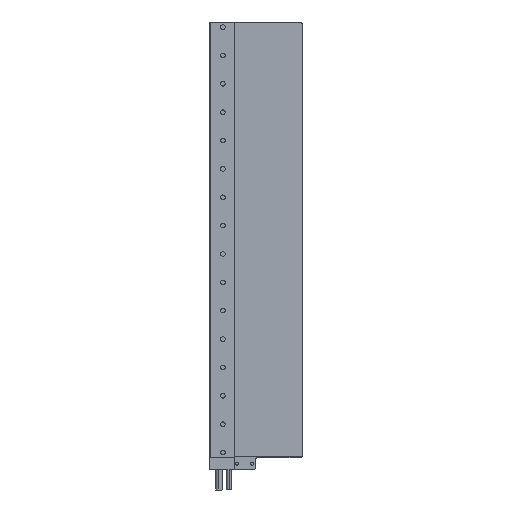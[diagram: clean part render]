
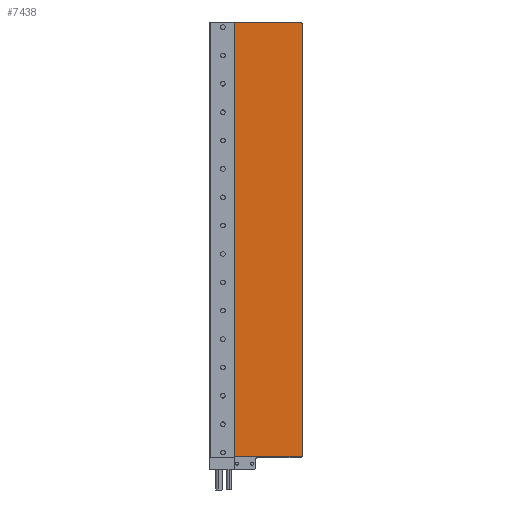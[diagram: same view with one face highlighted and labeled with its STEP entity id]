
A CAD part, front view. The second image highlights one B-rep face of the part: STEP entity #7438.
In plain terms, the highlighted planar face has unit normal (0, -1, 0).
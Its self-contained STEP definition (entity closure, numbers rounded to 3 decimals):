
#88 = VERTEX_POINT ( 'NONE', #9303 ) ;
#237 = CIRCLE ( 'NONE', #3713, 2. ) ;
#317 = CARTESIAN_POINT ( 'NONE',  ( 139.883, 195.639, 613.424 ) ) ;
#355 = DIRECTION ( 'NONE',  ( -1., 0., 0. ) ) ;
#511 = LINE ( 'NONE', #9707, #7962 ) ;
#561 = ORIENTED_EDGE ( 'NONE', *, *, #3413, .F. ) ;
#660 = CARTESIAN_POINT ( 'NONE',  ( 141.616, 195.639, 186.424 ) ) ;
#851 = DIRECTION ( 'NONE',  ( 0., 0., 1. ) ) ;
#1902 = VERTEX_POINT ( 'NONE', #8930 ) ;
#2148 = DIRECTION ( 'NONE',  ( -1., 0., 0. ) ) ;
#2223 = CARTESIAN_POINT ( 'NONE',  ( 141.883, 195.639, 186.424 ) ) ;
#2439 = CARTESIAN_POINT ( 'NONE',  ( 139.883, 195.639, 615.424 ) ) ;
#2601 = EDGE_CURVE ( 'NONE', #9315, #1902, #511, .T. ) ;
#2702 = DIRECTION ( 'NONE',  ( 0., -1., 0. ) ) ;
#2799 = VERTEX_POINT ( 'NONE', #2439 ) ;
#2814 = VECTOR ( 'NONE', #2148, 1000. ) ;
#3104 = VECTOR ( 'NONE', #5394, 1000. ) ;
#3299 = CIRCLE ( 'NONE', #7924, 2. ) ;
#3308 = CARTESIAN_POINT ( 'NONE',  ( 139.883, 195.639, 187.424 ) ) ;
#3413 = EDGE_CURVE ( 'NONE', #4842, #88, #5314, .T. ) ;
#3713 = AXIS2_PLACEMENT_3D ( 'NONE', #317, #2702, #10285 ) ;
#4032 = VECTOR ( 'NONE', #355, 1000. ) ;
#4053 = PLANE ( 'NONE',  #10879 ) ;
#4679 = ORIENTED_EDGE ( 'NONE', *, *, #7235, .T. ) ;
#4732 = VERTEX_POINT ( 'NONE', #660 ) ;
#4842 = VERTEX_POINT ( 'NONE', #7977 ) ;
#5212 = EDGE_CURVE ( 'NONE', #4732, #9315, #3299, .T. ) ;
#5314 = LINE ( 'NONE', #7930, #3104 ) ;
#5353 = DIRECTION ( 'NONE',  ( 0., 0., 1. ) ) ;
#5394 = DIRECTION ( 'NONE',  ( 0., 0., 1. ) ) ;
#6048 = ORIENTED_EDGE ( 'NONE', *, *, #8971, .F. ) ;
#6140 = CARTESIAN_POINT ( 'NONE',  ( 141.883, 195.639, 187.424 ) ) ;
#6528 = CARTESIAN_POINT ( 'NONE',  ( 141.883, 195.639, 173.424 ) ) ;
#6726 = LINE ( 'NONE', #2223, #2814 ) ;
#6892 = ORIENTED_EDGE ( 'NONE', *, *, #2601, .T. ) ;
#7187 = EDGE_CURVE ( 'NONE', #2799, #88, #9290, .T. ) ;
#7235 = EDGE_CURVE ( 'NONE', #1902, #2799, #237, .T. ) ;
#7438 = ADVANCED_FACE ( 'NONE', ( #9940 ), #4053, .F. ) ;
#7924 = AXIS2_PLACEMENT_3D ( 'NONE', #3308, #9166, #851 ) ;
#7930 = CARTESIAN_POINT ( 'NONE',  ( 74.583, 195.639, 173.424 ) ) ;
#7962 = VECTOR ( 'NONE', #5353, 1000. ) ;
#7977 = CARTESIAN_POINT ( 'NONE',  ( 74.583, 195.639, 186.424 ) ) ;
#8225 = DIRECTION ( 'NONE',  ( 0., 1., 0. ) ) ;
#8666 = CARTESIAN_POINT ( 'NONE',  ( 141.883, 195.639, 615.424 ) ) ;
#8930 = CARTESIAN_POINT ( 'NONE',  ( 141.883, 195.639, 613.424 ) ) ;
#8971 = EDGE_CURVE ( 'NONE', #4732, #4842, #6726, .T. ) ;
#9166 = DIRECTION ( 'NONE',  ( 0., -1., 0. ) ) ;
#9290 = LINE ( 'NONE', #8666, #4032 ) ;
#9303 = CARTESIAN_POINT ( 'NONE',  ( 74.583, 195.639, 615.424 ) ) ;
#9315 = VERTEX_POINT ( 'NONE', #6140 ) ;
#9339 = ORIENTED_EDGE ( 'NONE', *, *, #5212, .T. ) ;
#9707 = CARTESIAN_POINT ( 'NONE',  ( 141.883, 195.639, 173.424 ) ) ;
#9744 = ORIENTED_EDGE ( 'NONE', *, *, #7187, .T. ) ;
#9924 = DIRECTION ( 'NONE',  ( 1., 0., 0. ) ) ;
#9934 = EDGE_LOOP ( 'NONE', ( #6892, #4679, #9744, #561, #6048, #9339 ) ) ;
#9940 = FACE_OUTER_BOUND ( 'NONE', #9934, .T. ) ;
#10285 = DIRECTION ( 'NONE',  ( 1., 0., 0. ) ) ;
#10879 = AXIS2_PLACEMENT_3D ( 'NONE', #6528, #8225, #9924 ) ;
